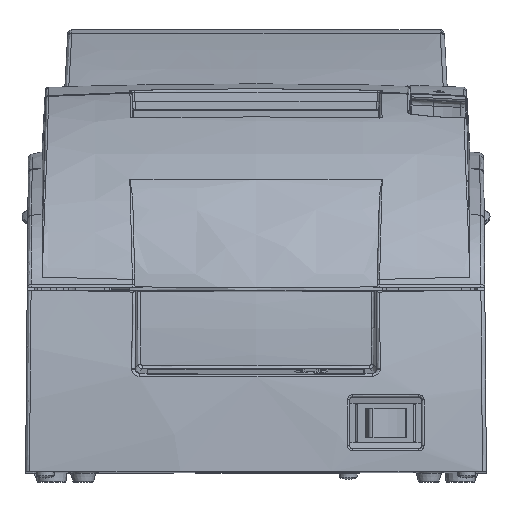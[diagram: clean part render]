
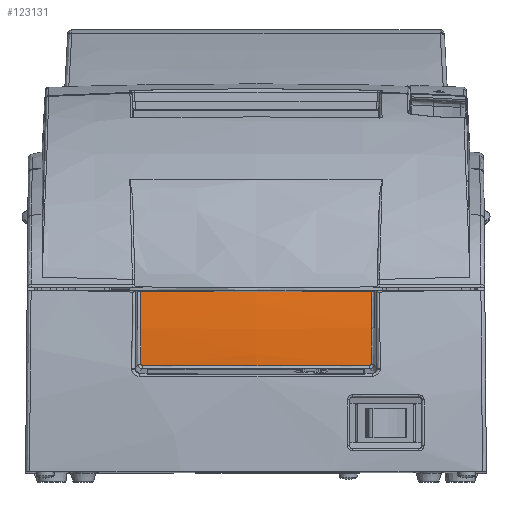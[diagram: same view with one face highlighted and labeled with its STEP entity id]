
A CAD part, top view. The second image highlights one B-rep face of the part: STEP entity #123131.
In plain terms, the highlighted free-form (B-spline) face has degree [3, 3] with [5, 7] control points.
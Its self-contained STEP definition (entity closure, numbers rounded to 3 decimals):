
#109114=CARTESIAN_POINT('',(-40.124,-24.326,
77.889));
#109115=CARTESIAN_POINT('',(-33.444,-24.355,
78.23));
#109116=CARTESIAN_POINT('',(-20.076,-24.399,
78.741));
#109117=CARTESIAN_POINT('',(0.,-24.42,
78.997));
#109118=CARTESIAN_POINT('',(20.076,-24.399,
78.741));
#109119=CARTESIAN_POINT('',(33.444,-24.355,
78.23));
#109120=CARTESIAN_POINT('',(40.124,-24.326,
77.889));
#109204=CARTESIAN_POINT('',(39.45,-50.084,
80.397));
#109205=CARTESIAN_POINT('',(32.88,-50.112,
80.722));
#109206=CARTESIAN_POINT('',(19.733,-50.155,
81.208));
#109207=CARTESIAN_POINT('',(0.,-50.176,
81.452));
#109208=CARTESIAN_POINT('',(-19.732,-50.155,
81.208));
#109209=CARTESIAN_POINT('',(-32.88,-50.112,
80.722));
#109210=CARTESIAN_POINT('',(-39.45,-50.084,
80.397));
#111093=CARTESIAN_POINT('',(40.124,-24.326,
77.889));
#111094=CARTESIAN_POINT('',(40.106,-27.096,
78.417));
#111095=CARTESIAN_POINT('',(40.071,-32.671,
79.308));
#111096=CARTESIAN_POINT('',(40.013,-41.115,
80.138));
#111097=CARTESIAN_POINT('',(39.97,-46.764,
80.35));
#111098=CARTESIAN_POINT('',(39.946,-49.59,
80.37));
#111118=CARTESIAN_POINT('',(39.946,-49.59,
80.37));
#111119=CARTESIAN_POINT('',(39.946,-49.622,
80.37));
#111120=CARTESIAN_POINT('',(39.939,-49.687,
80.371));
#111121=CARTESIAN_POINT('',(39.91,-49.78,
80.373));
#111122=CARTESIAN_POINT('',(39.864,-49.866,
80.376));
#111123=CARTESIAN_POINT('',(39.802,-49.941,
80.379));
#111124=CARTESIAN_POINT('',(39.726,-50.003,
80.383));
#111125=CARTESIAN_POINT('',(39.64,-50.049,
80.388));
#111126=CARTESIAN_POINT('',(39.547,-50.077,
80.392));
#111127=CARTESIAN_POINT('',(39.482,-50.084,
80.396));
#111128=CARTESIAN_POINT('',(39.45,-50.084,
80.397));
#111164=CARTESIAN_POINT('',(-39.45,-50.084,
80.397));
#111165=CARTESIAN_POINT('',(-39.482,-50.084,
80.396));
#111166=CARTESIAN_POINT('',(-39.547,-50.077,
80.392));
#111167=CARTESIAN_POINT('',(-39.64,-50.049,
80.388));
#111168=CARTESIAN_POINT('',(-39.726,-50.003,
80.383));
#111169=CARTESIAN_POINT('',(-39.802,-49.941,
80.379));
#111170=CARTESIAN_POINT('',(-39.864,-49.866,
80.376));
#111171=CARTESIAN_POINT('',(-39.91,-49.78,
80.373));
#111172=CARTESIAN_POINT('',(-39.939,-49.687,
80.371));
#111173=CARTESIAN_POINT('',(-39.946,-49.622,
80.37));
#111174=CARTESIAN_POINT('',(-39.946,-49.59,
80.37));
#111176=CARTESIAN_POINT('',(-39.946,-49.59,
80.37));
#111177=CARTESIAN_POINT('',(-39.97,-46.764,
80.35));
#111178=CARTESIAN_POINT('',(-40.013,-41.115,
80.138));
#111179=CARTESIAN_POINT('',(-40.071,-32.671,
79.308));
#111180=CARTESIAN_POINT('',(-40.106,-27.096,
78.417));
#111181=CARTESIAN_POINT('',(-40.124,-24.326,
77.889));
#118752=VERTEX_POINT('',#109204);
#118753=VERTEX_POINT('',#109210);
#118992=VERTEX_POINT('',#111118);
#118994=VERTEX_POINT('',#111093);
#118996=VERTEX_POINT('',#111174);
#118998=VERTEX_POINT('',#111181);
#123081=CARTESIAN_POINT('',(-41.727,-50.689,
80.282));
#123082=CARTESIAN_POINT('',(-41.727,-49.189,
80.284));
#123083=CARTESIAN_POINT('',(-41.727,-44.751,
80.217));
#123084=CARTESIAN_POINT('',(-41.727,-37.387,
79.756));
#123085=CARTESIAN_POINT('',(-41.727,-29.93,
78.815));
#123086=CARTESIAN_POINT('',(-41.727,-25.423,
78.021));
#123087=CARTESIAN_POINT('',(-41.727,-23.815,
77.708));
#123088=CARTESIAN_POINT('',(-27.831,-50.689,
81.008));
#123089=CARTESIAN_POINT('',(-27.831,-49.189,
81.009));
#123090=CARTESIAN_POINT('',(-27.831,-44.751,
80.943));
#123091=CARTESIAN_POINT('',(-27.831,-37.387,
80.482));
#123092=CARTESIAN_POINT('',(-27.831,-29.93,
79.541));
#123093=CARTESIAN_POINT('',(-27.831,-25.423,
78.747));
#123094=CARTESIAN_POINT('',(-27.831,-23.815,
78.434));
#123095=CARTESIAN_POINT('',(0.,-50.689,
81.734));
#123096=CARTESIAN_POINT('',(0.,-49.189,
81.736));
#123097=CARTESIAN_POINT('',(0.,-44.751,
81.669));
#123098=CARTESIAN_POINT('',(0.,-37.387,
81.208));
#123099=CARTESIAN_POINT('',(0.,-29.93,
80.268));
#123100=CARTESIAN_POINT('',(0.,-25.423,
79.473));
#123101=CARTESIAN_POINT('',(0.,-23.815,
79.16));
#123102=CARTESIAN_POINT('',(27.831,-50.689,
81.008));
#123103=CARTESIAN_POINT('',(27.831,-49.189,
81.009));
#123104=CARTESIAN_POINT('',(27.831,-44.751,
80.943));
#123105=CARTESIAN_POINT('',(27.831,-37.387,
80.482));
#123106=CARTESIAN_POINT('',(27.831,-29.93,
79.541));
#123107=CARTESIAN_POINT('',(27.831,-25.423,
78.747));
#123108=CARTESIAN_POINT('',(27.831,-23.815,
78.434));
#123109=CARTESIAN_POINT('',(41.727,-50.689,
80.282));
#123110=CARTESIAN_POINT('',(41.727,-49.189,
80.284));
#123111=CARTESIAN_POINT('',(41.727,-44.751,
80.217));
#123112=CARTESIAN_POINT('',(41.727,-37.387,
79.756));
#123113=CARTESIAN_POINT('',(41.727,-29.93,
78.815));
#123114=CARTESIAN_POINT('',(41.727,-25.423,
78.021));
#123115=CARTESIAN_POINT('',(41.727,-23.815,
77.708));
#123116=B_SPLINE_SURFACE_WITH_KNOTS('',3,3,((#123081,#123082,#123083,#123084,
#123085,#123086,#123087),(#123088,#123089,#123090,#123091,#123092,#123093,
#123094),(#123095,#123096,#123097,#123098,#123099,#123100,#123101),(#123102,
#123103,#123104,#123105,#123106,#123107,#123108),(#123109,#123110,#123111,
#123112,#123113,#123114,#123115)),.UNSPECIFIED.,.F.,.F.,.F.,(4,1,4),(4,1,1,1,4),
(0.056,0.5,0.944),(0.122,0.25,0.5,
0.75,0.889),.UNSPECIFIED.);
#123118=ORIENTED_EDGE('',*,*,#123117,.T.);
#123120=ORIENTED_EDGE('',*,*,#123119,.T.);
#123122=ORIENTED_EDGE('',*,*,#123121,.T.);
#123124=ORIENTED_EDGE('',*,*,#123123,.T.);
#123126=ORIENTED_EDGE('',*,*,#123125,.T.);
#123128=ORIENTED_EDGE('',*,*,#123127,.T.);
#123129=EDGE_LOOP('',(#123118,#123120,#123122,#123124,#123126,#123128));
#123130=FACE_OUTER_BOUND('',#123129,.F.);
#109121=B_SPLINE_CURVE_WITH_KNOTS('',3,(#109114,#109115,#109116,#109117,#109118,
#109119,#109120),.UNSPECIFIED.,.F.,.F.,(4,1,1,1,4),(0.,0.25,0.5,0.75,
1.),.UNSPECIFIED.);
#109211=B_SPLINE_CURVE_WITH_KNOTS('',3,(#109204,#109205,#109206,#109207,#109208,
#109209,#109210),.UNSPECIFIED.,.F.,.F.,(4,1,1,1,4),(0.,0.25,0.5,0.75,
1.),.UNSPECIFIED.);
#111099=B_SPLINE_CURVE_WITH_KNOTS('',3,(#111093,#111094,#111095,#111096,#111097,
#111098),.UNSPECIFIED.,.F.,.F.,(4,1,1,4),(0.,0.333,
0.667,1.),.UNSPECIFIED.);
#111129=B_SPLINE_CURVE_WITH_KNOTS('',3,(#111118,#111119,#111120,#111121,#111122,
#111123,#111124,#111125,#111126,#111127,#111128),.UNSPECIFIED.,.F.,.F.,(4,1,1,1,
1,1,1,1,4),(0.,0.125,0.25,0.375,0.5,0.625,0.75,0.875,1.),
.UNSPECIFIED.);
#111175=B_SPLINE_CURVE_WITH_KNOTS('',3,(#111164,#111165,#111166,#111167,#111168,
#111169,#111170,#111171,#111172,#111173,#111174),.UNSPECIFIED.,.F.,.F.,(4,1,1,1,
1,1,1,1,4),(0.,0.125,0.25,0.375,0.5,0.625,0.75,0.875,1.),
.UNSPECIFIED.);
#111182=B_SPLINE_CURVE_WITH_KNOTS('',3,(#111176,#111177,#111178,#111179,#111180,
#111181),.UNSPECIFIED.,.F.,.F.,(4,1,1,4),(0.,0.333,
0.667,1.),.UNSPECIFIED.);
#123117=EDGE_CURVE('',#118752,#118753,#109211,.T.);
#123119=EDGE_CURVE('',#118753,#118996,#111175,.T.);
#123121=EDGE_CURVE('',#118996,#118998,#111182,.T.);
#123123=EDGE_CURVE('',#118998,#118994,#109121,.T.);
#123125=EDGE_CURVE('',#118994,#118992,#111099,.T.);
#123127=EDGE_CURVE('',#118992,#118752,#111129,.T.);
#123131=ADVANCED_FACE('',(#123130),#123116,.T.);
